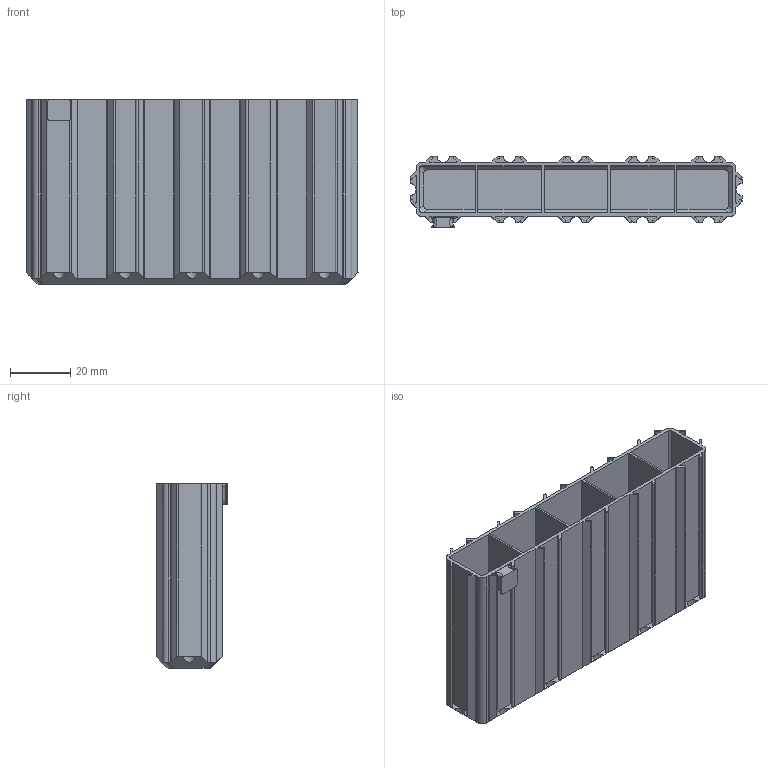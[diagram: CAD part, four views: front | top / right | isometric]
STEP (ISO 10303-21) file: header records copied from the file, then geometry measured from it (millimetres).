
FILE_DESCRIPTION(/* description */ (''),/* implementation_level */ '2;1');
FILE_NAME(/* name */ 'BOX_x05_y01_z060_txn_ty0.stp',/* time_stamp */ '2024-02-16T08:36:20+01:00',/* author */ ('ott'),/* organization */ (''),/* preprocessor_version */ 'ST-DEVELOPER v19.2',/* originating_system */ 'Autodesk Inventor 2023',/* authorisation */ '');
FILE_SCHEMA (('AUTOMOTIVE_DESIGN { 1 0 10303 214 3 1 1 }'));
Length unit declared in the file: millimetre
Products named in the file (1): BOX_x05_y01_z060_txn_ty0
Bounding box: 110 x 23.8 x 61.2 mm (x, y, z)
Volume: 25591.4 mm3; surface area: 45790.4 mm2
Topology: 2 solids, 2 shells, 263 faces, 736 edges, 482 vertices
Faces by surface type: plane 155, cylinder 104, torus 4
Entity records: 8864 total; most frequent: CARTESIAN_POINT 1562, DIRECTION 1500, ORIENTED_EDGE 1472, EDGE_CURVE 736, AXIS2_PLACEMENT_3D 508, LINE 484, VECTOR 484, VERTEX_POINT 482
